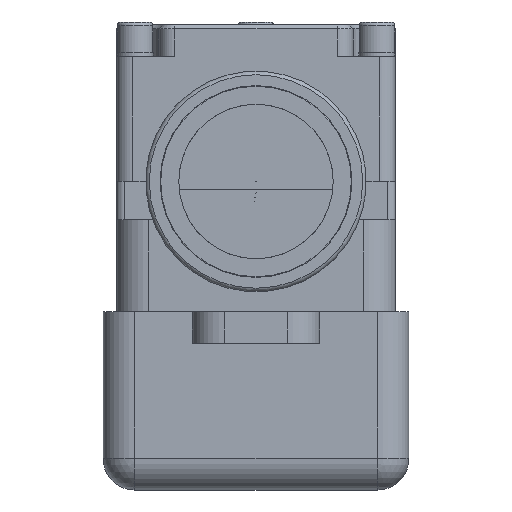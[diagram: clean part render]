
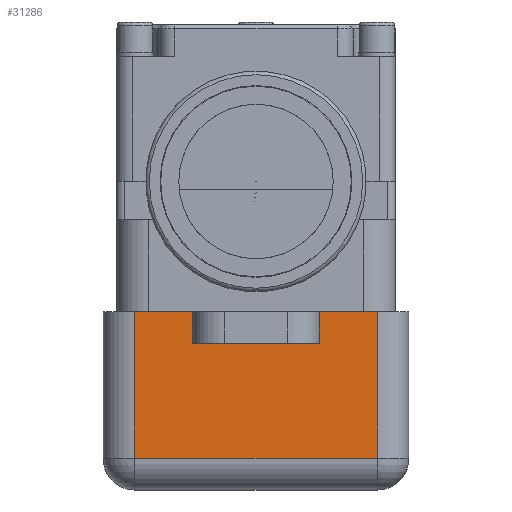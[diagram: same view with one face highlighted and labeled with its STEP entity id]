
A CAD part, front view. The second image highlights one B-rep face of the part: STEP entity #31286.
In plain terms, the highlighted planar face has unit normal (0, -1, 0).
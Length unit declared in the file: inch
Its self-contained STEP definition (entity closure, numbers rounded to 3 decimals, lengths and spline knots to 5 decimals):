
#29490=CARTESIAN_POINT('',(-0.95,-5.515,0.));
#29491=VERTEX_POINT('',#29490);
#29499=CARTESIAN_POINT('',(-0.5,-5.515,0.));
#29500=VERTEX_POINT('',#29499);
#29501=CARTESIAN_POINT('',(-0.95,-5.515,0.));
#29502=DIRECTION('',(1.0,0.0,0.0));
#29503=VECTOR('',#29502,0.45);
#29504=LINE('',#29501,#29503);
#29505=EDGE_CURVE('',#29491,#29500,#29504,.T.);
#29541=CARTESIAN_POINT('',(0.5,-5.515,0.));
#29542=VERTEX_POINT('',#29541);
#29549=CARTESIAN_POINT('',(0.95,-5.515,0.));
#29550=VERTEX_POINT('',#29549);
#29551=CARTESIAN_POINT('',(0.5,-5.515,0.));
#29552=DIRECTION('',(1.0,0.0,0.0));
#29553=VECTOR('',#29552,0.45);
#29554=LINE('',#29551,#29553);
#29555=EDGE_CURVE('',#29542,#29550,#29554,.T.);
#30966=CARTESIAN_POINT('',(0.95,-5.515,-1.15));
#30967=VERTEX_POINT('',#30966);
#31036=CARTESIAN_POINT('',(-0.95,-5.515,-1.15));
#31037=VERTEX_POINT('',#31036);
#31077=CARTESIAN_POINT('',(-0.95,-5.515,-1.15));
#31078=DIRECTION('',(0.0,0.0,1.0));
#31079=VECTOR('',#31078,1.15);
#31080=LINE('',#31077,#31079);
#31081=EDGE_CURVE('',#31037,#29491,#31080,.T.);
#31114=CARTESIAN_POINT('',(0.95,-5.515,-1.15));
#31115=DIRECTION('',(-1.0,0.0,0.0));
#31116=VECTOR('',#31115,1.9);
#31117=LINE('',#31114,#31116);
#31118=EDGE_CURVE('',#30967,#31037,#31117,.T.);
#31180=CARTESIAN_POINT('',(0.95,-5.515,0.));
#31181=DIRECTION('',(0.0,0.0,-1.0));
#31182=VECTOR('',#31181,1.15);
#31183=LINE('',#31180,#31182);
#31184=EDGE_CURVE('',#29550,#30967,#31183,.T.);
#31252=CARTESIAN_POINT('',(-1.2,-5.515,0.));
#31253=DIRECTION('',(0.0,-1.0,0.0));
#31254=DIRECTION('',(0.0,0.0,-1.0));
#31255=AXIS2_PLACEMENT_3D('',#31252,#31253,#31254);
#31256=PLANE('',#31255);
#31257=ORIENTED_EDGE('',*,*,#31081,.F.);
#31258=ORIENTED_EDGE('',*,*,#31118,.F.);
#31259=ORIENTED_EDGE('',*,*,#31184,.F.);
#31260=ORIENTED_EDGE('',*,*,#29555,.F.);
#31261=CARTESIAN_POINT('',(0.5,-5.515,-0.25));
#31262=VERTEX_POINT('',#31261);
#31263=CARTESIAN_POINT('',(0.5,-5.515,0.));
#31264=DIRECTION('',(0.0,0.0,-1.0));
#31265=VECTOR('',#31264,0.25);
#31266=LINE('',#31263,#31265);
#31267=EDGE_CURVE('',#29542,#31262,#31266,.T.);
#31268=ORIENTED_EDGE('',*,*,#31267,.T.);
#31269=CARTESIAN_POINT('',(-0.5,-5.515,-0.25));
#31270=VERTEX_POINT('',#31269);
#31271=CARTESIAN_POINT('',(0.5,-5.515,-0.25));
#31272=DIRECTION('',(-1.0,0.0,0.0));
#31273=VECTOR('',#31272,1.);
#31274=LINE('',#31271,#31273);
#31275=EDGE_CURVE('',#31262,#31270,#31274,.T.);
#31276=ORIENTED_EDGE('',*,*,#31275,.T.);
#31277=CARTESIAN_POINT('',(-0.5,-5.515,-0.25));
#31278=DIRECTION('',(0.0,0.0,1.0));
#31279=VECTOR('',#31278,0.25);
#31280=LINE('',#31277,#31279);
#31281=EDGE_CURVE('',#31270,#29500,#31280,.T.);
#31282=ORIENTED_EDGE('',*,*,#31281,.T.);
#31283=ORIENTED_EDGE('',*,*,#29505,.F.);
#31284=EDGE_LOOP('',(#31257,#31258,#31259,#31260,#31268,#31276,#31282,#31283));
#31285=FACE_OUTER_BOUND('',#31284,.T.);
#31286=ADVANCED_FACE('',(#31285),#31256,.T.);
